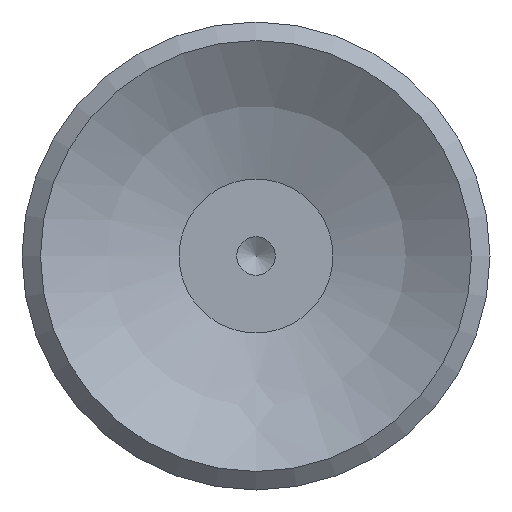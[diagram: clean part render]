
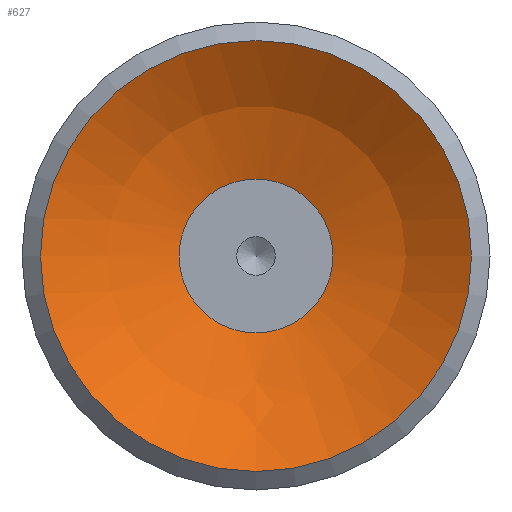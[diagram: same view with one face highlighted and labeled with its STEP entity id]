
A CAD part, front view. The second image highlights one B-rep face of the part: STEP entity #627.
In plain terms, the highlighted spherical face has radius 11.5 mm.
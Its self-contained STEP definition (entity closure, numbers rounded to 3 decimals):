
#627=ADVANCED_FACE('',(#1009,#1010),#1011,.F.);
#1009=FACE_OUTER_BOUND('',#1532,.T.);
#1010=FACE_OUTER_BOUND('',#1533,.T.);
#1011=SPHERICAL_SURFACE('',#1534,11.5);
#1532=EDGE_LOOP('',(#2579));
#1533=EDGE_LOOP('',(#2580));
#1534=AXIS2_PLACEMENT_3D('',#2581,#2582,#2583);
#2579=ORIENTED_EDGE('',*,*,#3509,.T.);
#2580=ORIENTED_EDGE('',*,*,#3510,.F.);
#2581=CARTESIAN_POINT('',(0.001,9.494,-22.735));
#2582=DIRECTION('',(0.0,0.,-1.0));
#2583=DIRECTION('',(1.0,0.0,0.0));
#3509=EDGE_CURVE('',#4119,#4119,#4120,.T.);
#3510=EDGE_CURVE('',#4121,#4121,#4122,.T.);
#4119=VERTEX_POINT('',#5848);
#4120=CIRCLE('',#5849,7.0);
#4121=VERTEX_POINT('',#5850);
#4122=CIRCLE('',#5851,2.5);
#5848=CARTESIAN_POINT('',(0.001,16.494,-13.611));
#5849=AXIS2_PLACEMENT_3D('',#6490,#6491,#6492);
#5850=CARTESIAN_POINT('',(0.001,11.994,-11.51));
#5851=AXIS2_PLACEMENT_3D('',#6493,#6494,#6495);
#6490=CARTESIAN_POINT('',(0.001,9.494,-13.611));
#6491=DIRECTION('',(0.0,0.,-1.0));
#6492=DIRECTION('',(0.0,1.0,0.));
#6493=CARTESIAN_POINT('',(0.001,9.494,-11.51));
#6494=DIRECTION('',(0.0,0.,-1.0));
#6495=DIRECTION('',(0.0,1.0,0.));
